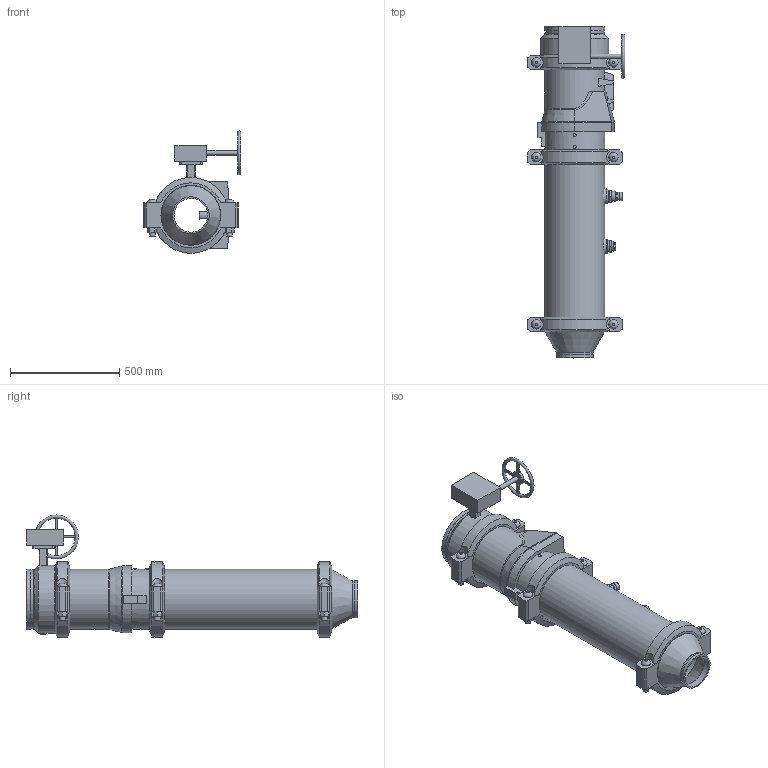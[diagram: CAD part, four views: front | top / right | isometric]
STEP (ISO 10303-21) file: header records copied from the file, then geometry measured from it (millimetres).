
FILE_DESCRIPTION(/* description */ ('VIC DVI PUMP DROP VERT S/380G (OGS)','CAx-IF Rec.Pracs.---Representation and Presentation of Product Manufacturing Information (PMI)---4.0---2014-10-13'),/* implementation_level */ '2;1');
FILE_NAME(/* name */ 'C:\Users\Public\Documents\Victaulic.Temp\A958\Victaulic_IPS_Vertical DVI_Series 380G (OGSxOGS)_10.0x06.0 (250x150).stp',/* time_stamp */ '2022-07-25T12:44:24+02:00',/* author */ ('Vjadhav'),/* organization */ ('Victaulic'),/* preprocessor_version */ 'ST-DEVELOPER v18',/* originating_system */ 'Autodesk Inventor 2020',/* authorisation */ '');
FILE_SCHEMA (('AP242_MANAGED_MODEL_BASED_3D_ENGINEERING_MIM_LF { 1 0 10303 442 1 1 4 }'));
Length unit declared in the file: inch
Products named in the file (8): 380G-10.0x06.0; 050-10.0x06.0; Pipe-10.0; 779-10.0; 923-10.0x0.75; 924-10.0x0.75; 761-10.0; 077-10.0
Assembly tree (9 placements, depth 2):
  380G-10.0x06.0
    050-10.0x06.0
    Pipe-10.0
    779-10.0
    923-10.0x0.75
    924-10.0x0.75
    761-10.0
    077-10.0  x3
Bounding box: 445.64 x 1517.4 x 558.01 mm (x, y, z)
Volume: 27856872.8 mm3; surface area: 3781960.3 mm2
Topology: 9 solids, 16 shells, 473 faces, 1183 edges, 806 vertices
Faces by surface type: plane 289, cylinder 149, cone 20, bspline 8, torus 7
Full cylindrical faces by diameter (mm): 10.922 x4, 12.7 x1, 13.716 x4, 20.066 x1, 21.336 x1, 22.86 x1, 25.4 x12, 26.67 x2, 27.432 x6, 38.608 x1, 45.974 x4, 55.626 x2, 63.079 x1, 70.104 x1, 76.2 x1, 154.051 x1, 163.957 x1, 168.275 x2, 254.508 x4, 264.16 x3, 268.275 x7, 273.05 x19, 311.15 x1
Entity records: 12025 total; most frequent: CARTESIAN_POINT 2464, DIRECTION 1947, ORIENTED_EDGE 1786, EDGE_CURVE 893, AXIS2_PLACEMENT_3D 743, VERTEX_POINT 610, LINE 461, VECTOR 461
